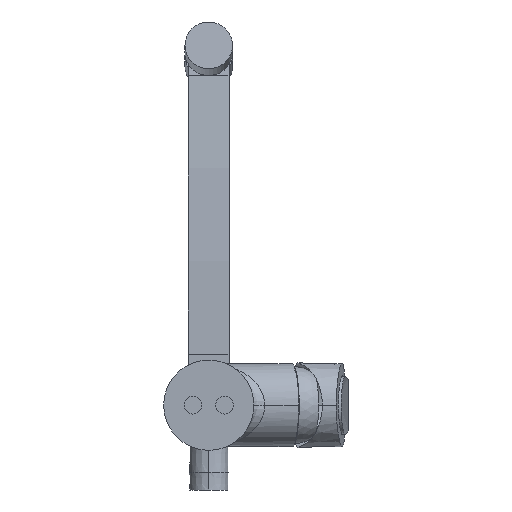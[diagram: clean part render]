
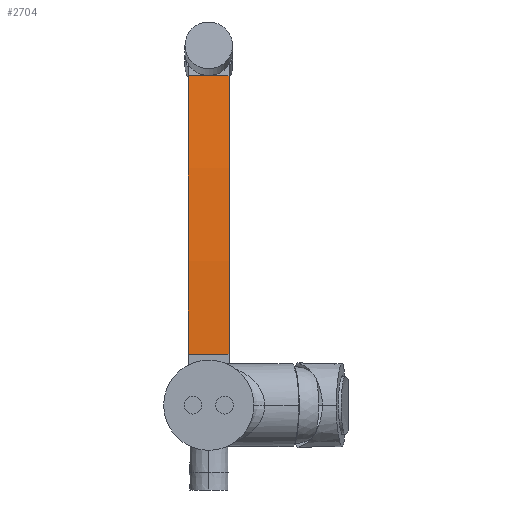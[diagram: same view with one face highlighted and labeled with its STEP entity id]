
A CAD part, front view. The second image highlights one B-rep face of the part: STEP entity #2704.
In plain terms, the highlighted cylindrical face has radius 910 mm (diameter 1820 mm), a partial arc.
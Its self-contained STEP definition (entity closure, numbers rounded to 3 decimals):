
#2434=DIRECTION('',(1.,0.,0.));
#2435=VECTOR('',#2434,23.);
#2436=CARTESIAN_POINT('',(-11.5,263.825,29.));
#2437=LINE('',#2436,#2435);
#2447=CARTESIAN_POINT('',(-11.5,1173.825,29.));
#2448=DIRECTION('',(-1.,0.,0.));
#2449=DIRECTION('',(0.,-1.,0.));
#2450=AXIS2_PLACEMENT_3D('',#2447,#2448,#2449);
#2476=CARTESIAN_POINT('',(11.5,1173.825,29.));
#2477=DIRECTION('',(-1.,0.,0.));
#2478=DIRECTION('',(0.,-1.,0.));
#2479=AXIS2_PLACEMENT_3D('',#2476,#2477,#2478);
#2570=DIRECTION('',(-1.,0.,0.));
#2571=VECTOR('',#2570,23.);
#2572=CARTESIAN_POINT('',(11.5,277.65,187.02));
#2573=LINE('',#2572,#2571);
#2642=CARTESIAN_POINT('',(-11.5,263.825,29.));
#2643=CARTESIAN_POINT('',(-11.5,277.65,187.02));
#2644=VERTEX_POINT('',#2642);
#2645=VERTEX_POINT('',#2643);
#2646=CARTESIAN_POINT('',(11.5,263.825,29.));
#2647=CARTESIAN_POINT('',(11.5,277.65,187.02));
#2648=VERTEX_POINT('',#2646);
#2649=VERTEX_POINT('',#2647);
#2690=CARTESIAN_POINT('',(-11.5,1173.825,29.));
#2691=DIRECTION('',(1.,0.,0.));
#2692=DIRECTION('',(0.,1.,0.));
#2693=AXIS2_PLACEMENT_3D('',#2690,#2691,#2692);
#2694=CYLINDRICAL_SURFACE('',#2693,910.);
#2695=ORIENTED_EDGE('',*,*,#2679,.F.);
#2697=ORIENTED_EDGE('',*,*,#2696,.T.);
#2699=ORIENTED_EDGE('',*,*,#2698,.F.);
#2701=ORIENTED_EDGE('',*,*,#2700,.F.);
#2702=EDGE_LOOP('',(#2695,#2697,#2699,#2701));
#2703=FACE_OUTER_BOUND('',#2702,.F.);
#2704=ADVANCED_FACE('',(#2703),#2694,.T.);
#2451=CIRCLE('',#2450,910.);
#2480=CIRCLE('',#2479,910.);
#2679=EDGE_CURVE('',#2644,#2648,#2437,.T.);
#2696=EDGE_CURVE('',#2644,#2645,#2451,.T.);
#2698=EDGE_CURVE('',#2649,#2645,#2573,.T.);
#2700=EDGE_CURVE('',#2648,#2649,#2480,.T.);
